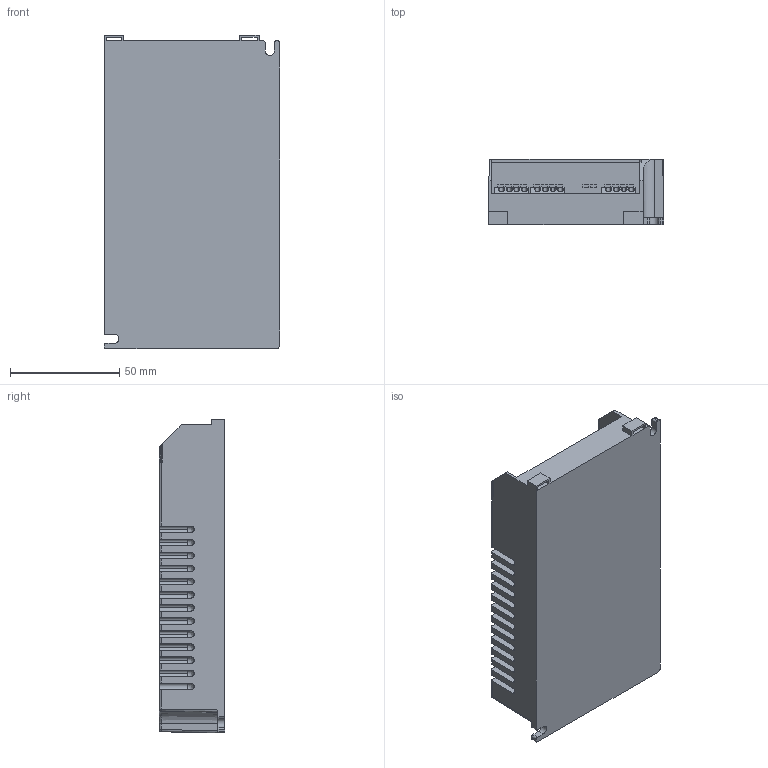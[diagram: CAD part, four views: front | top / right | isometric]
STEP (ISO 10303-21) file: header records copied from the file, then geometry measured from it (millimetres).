
FILE_DESCRIPTION (( 'STEP AP203' ), '1' );
FILE_NAME ('lc1x70-e-cc.STEP', '2014-08-12T06:10:52', ( '' ), ( '' ), 'SwSTEP 2.0', 'SolidWorks 2014', '' );
FILE_SCHEMA (( 'CONFIG_CONTROL_DESIGN' ));
Length unit declared in the file: millimetre
Products named in the file (1): lc1x70-e-cc
Bounding box: 80.5 x 30 x 143.8 mm (x, y, z)
Volume: 295133.1 mm3; surface area: 49422.1 mm2
Topology: 3 solids, 3 shells, 425 faces, 1198 edges, 792 vertices
Faces by surface type: plane 240, cylinder 160, bspline 24, cone 1
Entity records: 14580 total; most frequent: CARTESIAN_POINT 3843, ORIENTED_EDGE 2396, DIRECTION 2052, EDGE_CURVE 1198, VERTEX_POINT 792, VECTOR 746, LINE 746, AXIS2_PLACEMENT_3D 653
